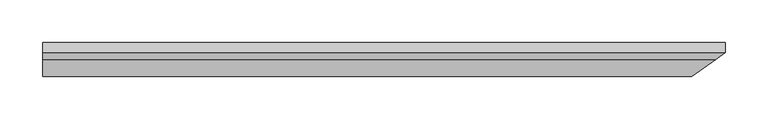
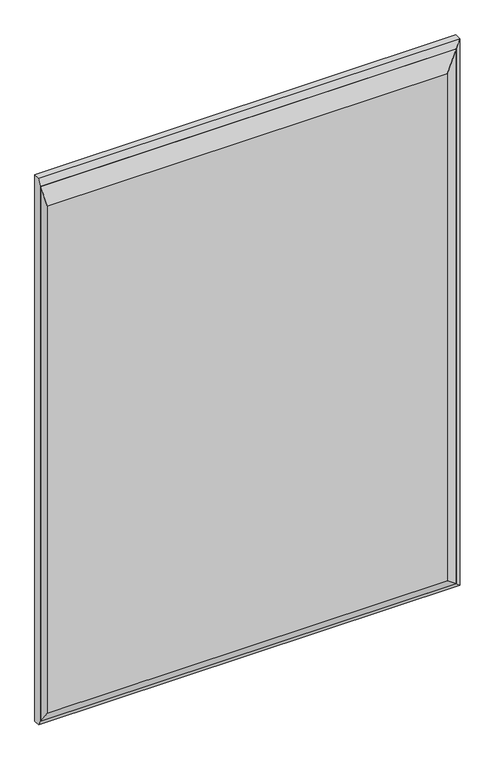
"""IFC4 building model written with IfcOpenShell, lengths in millimetres: proxy geometry, MK-TA24-STON-9T2-WD."""

from ifc_helpers import new_model, si_unit, origin, place, context, project, spatial, faceted_brep, source, transform, mapped, element, save


def generic_models_b7c8a502(model_context):
    return source(origin(), model_context, "Body", "Brep", [
        faceted_brep([(2100.0, 738.0, 550.0), (2100.0, 738.0, -550.0), (2100.0, 750.0, -550.0), (2100.0, 750.0, 550.0), (1297.5, 738.0, -550.0), (1297.5, 750.0, -550.0), (2088.6739954, 730.0, 538.6739954), (2088.6739954, 730.0, -538.6739954), (1297.5, 738.0, 550.0), (1297.5, 750.0, 550.0), (1297.5, 730.0, 538.6739954), (1297.5, 730.0, -538.6739954)], [[[0, 1, 2, 3]], [[2, 1, 4, 5]], [[1, 0, 6, 7]], [[8, 0, 3, 9]], [[0, 8, 10, 6]], [[3, 2, 5, 9]], [[1, 7, 11, 4]], [[11, 7, 6, 10]], [[4, 11, 10, 8, 9, 5]]]),
        faceted_brep([(1297.5, 710.0, 510.3589838), (1297.5, 710.0, -510.3589838), (2060.3589838, 710.0, -510.3589838), (2060.3589838, 710.0, 510.3589838), (2088.6739954, 730.0, -538.6739954), (1297.5, 730.0, -538.6739954), (2088.6739954, 730.0, 538.6739954), (1297.5, 730.0, 538.6739954)], [[[0, 1, 2, 3]], [[4, 2, 1, 5]], [[6, 3, 2, 4]], [[5, 7, 6, 4]], [[7, 0, 3, 6]], [[0, 7, 5, 1]]]),
    ])


if __name__ == "__main__":
    model = new_model("IFC4")
    model_context = context("Model", 3, world=origin())
    ifc_project = project(units=[si_unit("LENGTHUNIT", "METRE", prefix="MILLI")], contexts=[model_context])
    site = spatial("IfcSite", under=ifc_project)
    building = spatial("IfcBuilding", under=site)
    placement = place(None, origin())
    generic_models_shape = generic_models_b7c8a502(model_context)
    element("IfcBuildingElementProxy", 1, Name="MK-TA24-STON-9T2-WD", ObjectType="MK-TA24-STON-9T2-WD", at=placement, inside=building, context=model_context, shape_type="MappedRepresentation", body=[
        mapped(generic_models_shape, transform((0.0, 0.0, 0.0), x_axis=(1.0, 0.0, 0.0), y_axis=(0.0, 1.0, 0.0), z_axis=(0.0, 0.0, 1.0))),
    ])
    save(model, "model.ifc")
